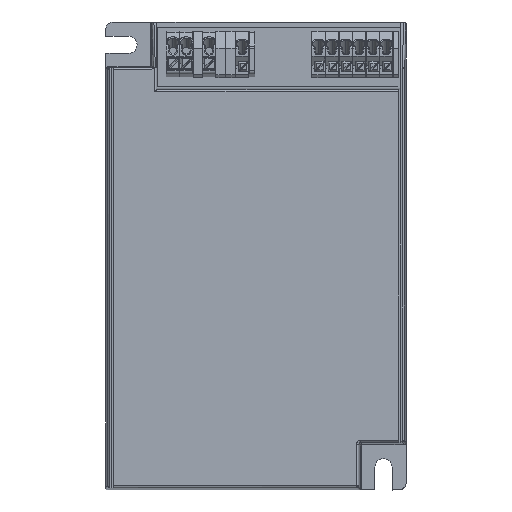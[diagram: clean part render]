
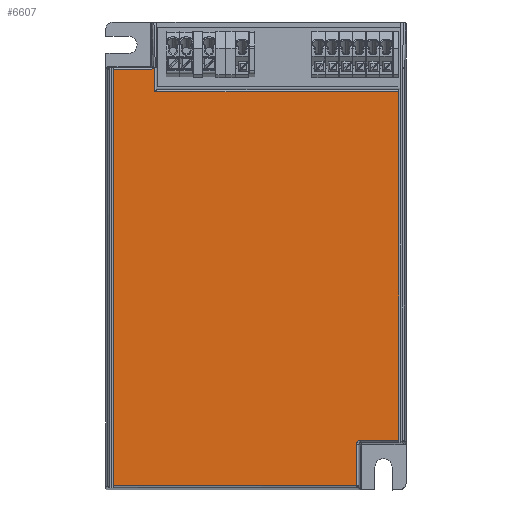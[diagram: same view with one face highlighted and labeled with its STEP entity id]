
A CAD part, top view. The second image highlights one B-rep face of the part: STEP entity #6607.
In plain terms, the highlighted planar face has unit normal (0, 0, 1).
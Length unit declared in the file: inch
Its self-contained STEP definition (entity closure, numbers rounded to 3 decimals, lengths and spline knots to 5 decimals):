
#648 = ORIENTED_EDGE ( 'NONE', *, *, #24776, .T. ) ;
#860 = VECTOR ( 'NONE', #23623, 39.37008 ) ;
#964 = VERTEX_POINT ( 'NONE', #19580 ) ;
#1089 = CARTESIAN_POINT ( 'NONE',  ( 28.92176, 5.67979, 6.85833 ) ) ;
#1657 = CARTESIAN_POINT ( 'NONE',  ( 31.05071, 1.83086, 6.85833 ) ) ;
#2012 = VECTOR ( 'NONE', #4073, 39.37008 ) ;
#2076 = ORIENTED_EDGE ( 'NONE', *, *, #15770, .T. ) ;
#2617 = CARTESIAN_POINT ( 'NONE',  ( 28.94226, 5.69315, 6.85833 ) ) ;
#3157 = CARTESIAN_POINT ( 'NONE',  ( 31.46723, 5.44461, 6.85833 ) ) ;
#3357 = CARTESIAN_POINT ( 'NONE',  ( 28.94007, 5.69183, 6.85833 ) ) ;
#3701 = LINE ( 'NONE', #37696, #18232 ) ;
#4073 = DIRECTION ( 'NONE',  ( -1., 0., 0. ) ) ;
#4982 = CARTESIAN_POINT ( 'NONE',  ( 28.9304, 5.68448, 6.85833 ) ) ;
#5298 = CARTESIAN_POINT ( 'NONE',  ( 28.51703, 5.67524, 6.85833 ) ) ;
#5299 = VECTOR ( 'NONE', #12981, 39.37008 ) ;
#5839 = CARTESIAN_POINT ( 'NONE',  ( 28.94463, 3.74611, 6.85833 ) ) ;
#5916 = LINE ( 'NONE', #18984, #17510 ) ;
#5943 = LINE ( 'NONE', #6606, #16021 ) ;
#6484 = EDGE_CURVE ( 'NONE', #32672, #27597, #35937, .T. ) ;
#6606 = CARTESIAN_POINT ( 'NONE',  ( 31.03416, 3.74611, 6.85833 ) ) ;
#6607 = ADVANCED_FACE ( 'NONE', ( #9057 ), #12986, .T. ) ;
#6897 = CARTESIAN_POINT ( 'NONE',  ( 31.05655, 1.8341, 6.85833 ) ) ;
#7927 = LINE ( 'NONE', #22304, #860 ) ;
#8850 = CARTESIAN_POINT ( 'NONE',  ( 31.03416, 1.79857, 6.85833 ) ) ;
#8907 = DIRECTION ( 'NONE',  ( -1., 0., 0. ) ) ;
#9057 = FACE_OUTER_BOUND ( 'NONE', #39288, .T. ) ;
#9549 = CARTESIAN_POINT ( 'NONE',  ( 28.92673, 5.68242, 6.85833 ) ) ;
#9918 = ORIENTED_EDGE ( 'NONE', *, *, #31794, .T. ) ;
#10195 = CARTESIAN_POINT ( 'NONE',  ( 28.9133, 5.67524, 6.85833 ) ) ;
#10580 = CARTESIAN_POINT ( 'NONE',  ( 29.99213, 5.44461, 6.85833 ) ) ;
#10795 = B_SPLINE_CURVE_WITH_KNOTS ( 'NONE', 3,
 ( #18692, #29871, #24558, #4982, #27875, #12151, #9549, #23282, #1089, #26563, #10195 ),
 .UNSPECIFIED., .F., .F.,
 ( 4, 1, 1, 1, 2, 2, 4 ),
 ( 0., 0.25, 0.375, 0.4375, 0.46875, 0.5, 1. ),
 .UNSPECIFIED. ) ;
#11197 = DIRECTION ( 'NONE',  ( 0., 1., 0. ) ) ;
#11725 = CARTESIAN_POINT ( 'NONE',  ( 29.99213, 1.83793, 6.85833 ) ) ;
#12113 = CARTESIAN_POINT ( 'NONE',  ( 31.06851, 1.83793, 6.85833 ) ) ;
#12151 = CARTESIAN_POINT ( 'NONE',  ( 28.92737, 5.68277, 6.85833 ) ) ;
#12742 = CARTESIAN_POINT ( 'NONE',  ( 31.05845, 1.83494, 6.85833 ) ) ;
#12981 = DIRECTION ( 'NONE',  ( 1., 0., 0. ) ) ;
#12986 = PLANE ( 'NONE',  #17300 ) ;
#13385 = CARTESIAN_POINT ( 'NONE',  ( 28.9133, 5.67524, 6.85833 ) ) ;
#13424 = CARTESIAN_POINT ( 'NONE',  ( 31.04186, 1.82257, 6.85833 ) ) ;
#13671 = DIRECTION ( 'NONE',  ( 0., -1., 0. ) ) ;
#14058 = CARTESIAN_POINT ( 'NONE',  ( 31.03607, 1.81072, 6.85833 ) ) ;
#14243 = VERTEX_POINT ( 'NONE', #3157 ) ;
#14730 = CARTESIAN_POINT ( 'NONE',  ( 31.05778, 1.83465, 6.85833 ) ) ;
#14837 = EDGE_CURVE ( 'NONE', #19755, #14243, #7927, .T. ) ;
#14987 = CARTESIAN_POINT ( 'NONE',  ( 29.99213, 3.74611, 6.85833 ) ) ;
#15017 = CARTESIAN_POINT ( 'NONE',  ( 28.51703, 3.74611, 6.85833 ) ) ;
#15503 = EDGE_CURVE ( 'NONE', #28408, #19755, #32705, .T. ) ;
#15770 = EDGE_CURVE ( 'NONE', #32179, #38827, #5943, .T. ) ;
#16021 = VECTOR ( 'NONE', #11197, 39.37008 ) ;
#16275 = DIRECTION ( 'NONE',  ( 1., 0., 0. ) ) ;
#16411 = DIRECTION ( 'NONE',  ( -1., 0., 0. ) ) ;
#16971 = EDGE_CURVE ( 'NONE', #30312, #32672, #5916, .T. ) ;
#17300 = AXIS2_PLACEMENT_3D ( 'NONE', #14987, #20866, #16275 ) ;
#17350 = CARTESIAN_POINT ( 'NONE',  ( 31.07352, 1.83793, 6.85833 ) ) ;
#17510 = VECTOR ( 'NONE', #16411, 39.37008 ) ;
#17759 = LINE ( 'NONE', #10580, #2012 ) ;
#18232 = VECTOR ( 'NONE', #8907, 39.37008 ) ;
#18692 = CARTESIAN_POINT ( 'NONE',  ( 28.93812, 5.69007, 6.85833 ) ) ;
#18932 = ORIENTED_EDGE ( 'NONE', *, *, #26249, .T. ) ;
#18984 = CARTESIAN_POINT ( 'NONE',  ( 29.99213, 5.67524, 6.85833 ) ) ;
#19309 = CARTESIAN_POINT ( 'NONE',  ( 31.03892, 1.8181, 6.85833 ) ) ;
#19580 = CARTESIAN_POINT ( 'NONE',  ( 28.94463, 5.44461, 6.85833 ) ) ;
#19755 = VERTEX_POINT ( 'NONE', #40403 ) ;
#20866 = DIRECTION ( 'NONE',  ( 0., 0., 1. ) ) ;
#21621 = ORIENTED_EDGE ( 'NONE', *, *, #16971, .T. ) ;
#21944 = EDGE_CURVE ( 'NONE', #27400, #34196, #36851, .T. ) ;
#21991 = CARTESIAN_POINT ( 'NONE',  ( 28.94463, 5.69397, 6.85833 ) ) ;
#22304 = CARTESIAN_POINT ( 'NONE',  ( 31.46723, 3.74611, 6.85833 ) ) ;
#22822 = EDGE_CURVE ( 'NONE', #38827, #28408, #23366, .T. ) ;
#22942 = ORIENTED_EDGE ( 'NONE', *, *, #6484, .T. ) ;
#23064 = CARTESIAN_POINT ( 'NONE',  ( 31.03416, 1.79857, 6.85833 ) ) ;
#23282 = CARTESIAN_POINT ( 'NONE',  ( 28.92635, 5.68222, 6.85833 ) ) ;
#23366 = B_SPLINE_CURVE_WITH_KNOTS ( 'NONE', 3,
 ( #8850, #31808, #35046, #23893, #14058, #37004, #30485, #19309, #13424, #29179, #1657, #32449, #6897, #14730, #12742, #29834, #12113, #17350 ),
 .UNSPECIFIED., .F., .F.,
 ( 4, 1, 1, 2, 2, 2, 1, 1, 2, 2, 4 ),
 ( 0., 0.125, 0.1875, 0.21875, 0.25, 0.5, 0.625, 0.6875, 0.71875, 0.75, 1. ),
 .UNSPECIFIED. ) ;
#23492 = LINE ( 'NONE', #5839, #39214 ) ;
#23586 = ORIENTED_EDGE ( 'NONE', *, *, #22822, .T. ) ;
#23623 = DIRECTION ( 'NONE',  ( 0., 1., 0. ) ) ;
#23756 = CARTESIAN_POINT ( 'NONE',  ( 31.07352, 1.83793, 6.85833 ) ) ;
#23893 = CARTESIAN_POINT ( 'NONE',  ( 31.03551, 1.80895, 6.85833 ) ) ;
#24147 = ORIENTED_EDGE ( 'NONE', *, *, #21944, .T. ) ;
#24558 = CARTESIAN_POINT ( 'NONE',  ( 28.93418, 5.68683, 6.85833 ) ) ;
#24776 = EDGE_CURVE ( 'NONE', #964, #27400, #23492, .T. ) ;
#25489 = CARTESIAN_POINT ( 'NONE',  ( 28.93812, 5.69007, 6.85833 ) ) ;
#26249 = EDGE_CURVE ( 'NONE', #34196, #30312, #10795, .T. ) ;
#26254 = CARTESIAN_POINT ( 'NONE',  ( 28.94463, 5.69397, 6.85833 ) ) ;
#26563 = CARTESIAN_POINT ( 'NONE',  ( 28.91732, 5.6777, 6.85833 ) ) ;
#27400 = VERTEX_POINT ( 'NONE', #21991 ) ;
#27597 = VERTEX_POINT ( 'NONE', #39151 ) ;
#27875 = CARTESIAN_POINT ( 'NONE',  ( 28.9283, 5.68328, 6.85833 ) ) ;
#28408 = VERTEX_POINT ( 'NONE', #23756 ) ;
#28789 = DIRECTION ( 'NONE',  ( 0., 1., 0. ) ) ;
#29179 = CARTESIAN_POINT ( 'NONE',  ( 31.0476, 1.82832, 6.85833 ) ) ;
#29524 = ORIENTED_EDGE ( 'NONE', *, *, #36882, .F. ) ;
#29834 = CARTESIAN_POINT ( 'NONE',  ( 31.06368, 1.83701, 6.85833 ) ) ;
#29871 = CARTESIAN_POINT ( 'NONE',  ( 28.93673, 5.68879, 6.85833 ) ) ;
#30277 = CARTESIAN_POINT ( 'NONE',  ( 31.03416, 1.36549, 6.85833 ) ) ;
#30312 = VERTEX_POINT ( 'NONE', #13385 ) ;
#30485 = CARTESIAN_POINT ( 'NONE',  ( 31.03667, 1.81243, 6.85833 ) ) ;
#31053 = CARTESIAN_POINT ( 'NONE',  ( 28.93812, 5.69007, 6.85833 ) ) ;
#31794 = EDGE_CURVE ( 'NONE', #14243, #964, #17759, .T. ) ;
#31808 = CARTESIAN_POINT ( 'NONE',  ( 31.03416, 1.80107, 6.85833 ) ) ;
#32179 = VERTEX_POINT ( 'NONE', #30277 ) ;
#32449 = CARTESIAN_POINT ( 'NONE',  ( 31.05474, 1.83321, 6.85833 ) ) ;
#32672 = VERTEX_POINT ( 'NONE', #5298 ) ;
#32705 = LINE ( 'NONE', #11725, #5299 ) ;
#34196 = VERTEX_POINT ( 'NONE', #31053 ) ;
#35046 = CARTESIAN_POINT ( 'NONE',  ( 31.03451, 1.80476, 6.85833 ) ) ;
#35937 = LINE ( 'NONE', #15017, #37623 ) ;
#36851 =( BOUNDED_CURVE ( )  B_SPLINE_CURVE ( 3, ( #26254, #2617, #3357, #25489 ),
 .UNSPECIFIED., .F., .F. ) 
 B_SPLINE_CURVE_WITH_KNOTS ( ( 4, 4 ),
 ( 0.26455, 0.64073 ),
 .UNSPECIFIED. ) 
 CURVE ( )  GEOMETRIC_REPRESENTATION_ITEM ( )  RATIONAL_B_SPLINE_CURVE ( ( 1., 0.988, 0.988, 1. ) ) 
 REPRESENTATION_ITEM ( '' )  );
#36882 = EDGE_CURVE ( 'NONE', #32179, #27597, #3701, .T. ) ;
#37004 = CARTESIAN_POINT ( 'NONE',  ( 31.03648, 1.81189, 6.85833 ) ) ;
#37367 = ORIENTED_EDGE ( 'NONE', *, *, #14837, .T. ) ;
#37623 = VECTOR ( 'NONE', #13671, 39.37008 ) ;
#37696 = CARTESIAN_POINT ( 'NONE',  ( 30.76969, 1.36549, 6.85833 ) ) ;
#38827 = VERTEX_POINT ( 'NONE', #23064 ) ;
#39151 = CARTESIAN_POINT ( 'NONE',  ( 28.51703, 1.36549, 6.85833 ) ) ;
#39175 = ORIENTED_EDGE ( 'NONE', *, *, #15503, .T. ) ;
#39214 = VECTOR ( 'NONE', #28789, 39.37008 ) ;
#39288 = EDGE_LOOP ( 'NONE', ( #39175, #37367, #9918, #648, #24147, #18932, #21621, #22942, #29524, #2076, #23586 ) ) ;
#40403 = CARTESIAN_POINT ( 'NONE',  ( 31.46723, 1.83793, 6.85833 ) ) ;
